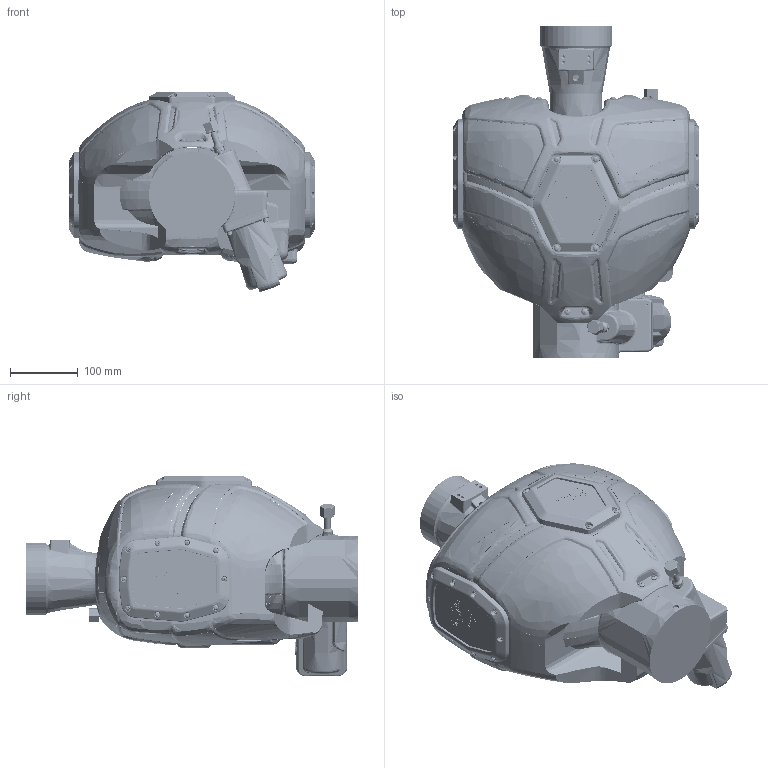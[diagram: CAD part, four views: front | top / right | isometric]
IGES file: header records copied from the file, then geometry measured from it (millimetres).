
Start section: SolidWorks IGES file using analytic representation for surfaces
Global section: file name: C:\Users\kprahl\Desktop\CobraMax Models for Website\CobraMax IGES Files\CobraMax 7250SDX2.IGS; native system: SolidWorks 2019; preprocessor: SolidWorks 2019; author: kprahl; date: 210412.170936; units: inch
Bounding box: 364.78 x 490.31 x 295.36 mm (x, y, z)
Surface area: 1384460.5 mm2 (no closed solid volume)
Topology: 0 solids, 0 shells, 9026 faces, 131574 edges, 131363 vertices
Faces by surface type: revolution 4558, bspline 4468
